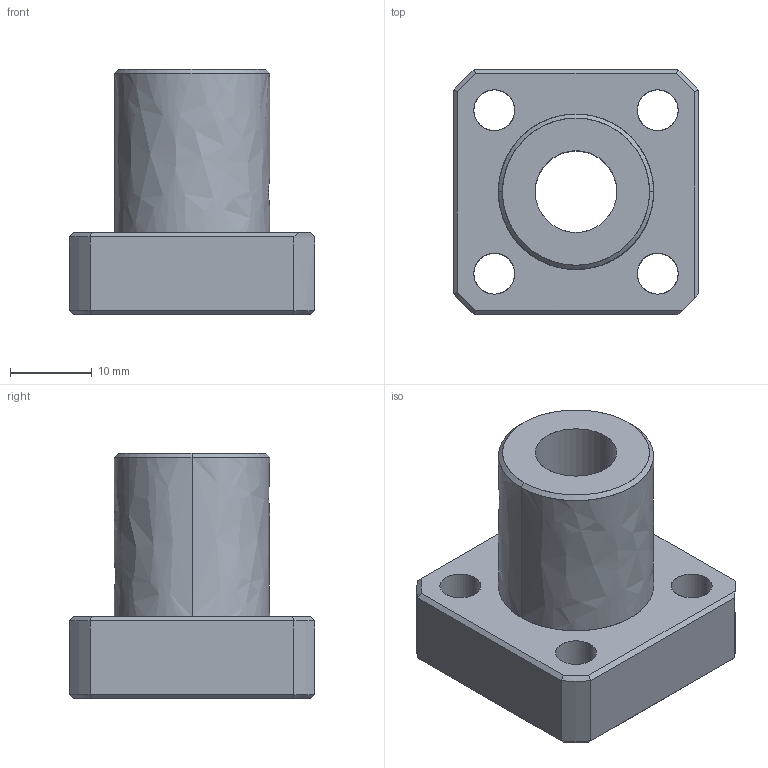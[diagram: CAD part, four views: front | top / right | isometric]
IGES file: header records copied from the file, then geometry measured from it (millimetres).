
Global section: file name: No Iges File Name specified; native system: AutoDesk Inventor R10; preprocessor: AutoDesk Inventor Iges Exporter R10; author: No Author specified; organization: No Organization specified; date: 20101214.154841; units: millimetre
Bounding box: 30 x 30 x 30 mm (x, y, z)
Surface area: 5303.1 mm2 (no closed solid volume)
Topology: 0 solids, 0 shells, 62 faces, 432 edges, 432 vertices
Faces by surface type: bspline 62
